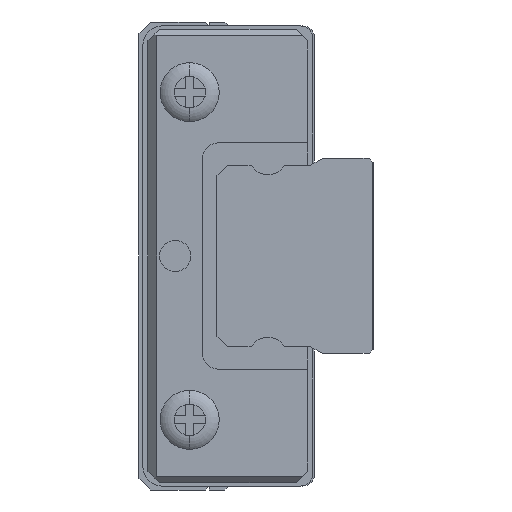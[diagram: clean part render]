
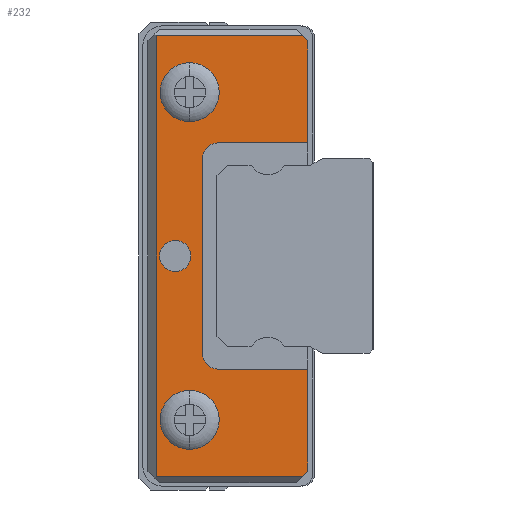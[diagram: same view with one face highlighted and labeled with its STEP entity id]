
A CAD part, left-side view. The second image highlights one B-rep face of the part: STEP entity #232.
In plain terms, the highlighted planar face has unit normal (-1, 0, 0).
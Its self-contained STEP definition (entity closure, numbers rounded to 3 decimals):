
#232 = ADVANCED_FACE( '', ( #656, #657, #658, #659 ), #660, .F. );
#656 = FACE_BOUND( '', #1253, .T. );
#657 = FACE_BOUND( '', #1254, .T. );
#658 = FACE_BOUND( '', #1255, .T. );
#659 = FACE_OUTER_BOUND( '', #1256, .T. );
#660 = PLANE( '', #1257 );
#1253 = EDGE_LOOP( '', ( #2466, #2467 ) );
#1254 = EDGE_LOOP( '', ( #2468, #2469 ) );
#1255 = EDGE_LOOP( '', ( #2470, #2471 ) );
#1256 = EDGE_LOOP( '', ( #2472, #2473, #2474, #2475, #2476, #2477, #2478, #2479, #2480, #2481, #2482, #2483 ) );
#1257 = AXIS2_PLACEMENT_3D( '', #2484, #2485, #2486 );
#2466 = ORIENTED_EDGE( '', *, *, #4173, .T. );
#2467 = ORIENTED_EDGE( '', *, *, #4201, .T. );
#2468 = ORIENTED_EDGE( '', *, *, #4117, .T. );
#2469 = ORIENTED_EDGE( '', *, *, #4213, .T. );
#2470 = ORIENTED_EDGE( '', *, *, #4130, .T. );
#2471 = ORIENTED_EDGE( '', *, *, #4214, .T. );
#2472 = ORIENTED_EDGE( '', *, *, #4205, .T. );
#2473 = ORIENTED_EDGE( '', *, *, #4215, .T. );
#2474 = ORIENTED_EDGE( '', *, *, #4216, .T. );
#2475 = ORIENTED_EDGE( '', *, *, #4217, .T. );
#2476 = ORIENTED_EDGE( '', *, *, #4218, .T. );
#2477 = ORIENTED_EDGE( '', *, *, #4219, .T. );
#2478 = ORIENTED_EDGE( '', *, *, #4220, .T. );
#2479 = ORIENTED_EDGE( '', *, *, #4221, .T. );
#2480 = ORIENTED_EDGE( '', *, *, #4222, .T. );
#2481 = ORIENTED_EDGE( '', *, *, #4223, .T. );
#2482 = ORIENTED_EDGE( '', *, *, #4224, .T. );
#2483 = ORIENTED_EDGE( '', *, *, #4209, .T. );
#2484 = CARTESIAN_POINT( '', ( 82.05, 1.5, 0. ) );
#2485 = DIRECTION( '', ( 1., 0., 0. ) );
#2486 = DIRECTION( '', ( 0., 0., -1. ) );
#4117 = EDGE_CURVE( '', #5003, #5000, #5004, .T. );
#4130 = EDGE_CURVE( '', #5029, #5026, #5030, .T. );
#4173 = EDGE_CURVE( '', #5115, #5112, #5116, .T. );
#4201 = EDGE_CURVE( '', #5112, #5115, #5159, .T. );
#4205 = EDGE_CURVE( '', #5165, #5162, #5166, .T. );
#4209 = EDGE_CURVE( '', #5172, #5165, #5173, .T. );
#4213 = EDGE_CURVE( '', #5000, #5003, #5179, .T. );
#4214 = EDGE_CURVE( '', #5026, #5029, #5180, .T. );
#4215 = EDGE_CURVE( '', #5162, #5181, #5182, .T. );
#4216 = EDGE_CURVE( '', #5181, #5183, #5184, .T. );
#4217 = EDGE_CURVE( '', #5183, #5185, #5186, .T. );
#4218 = EDGE_CURVE( '', #5185, #5187, #5188, .T. );
#4219 = EDGE_CURVE( '', #5187, #5189, #5190, .T. );
#4220 = EDGE_CURVE( '', #5189, #5191, #5192, .T. );
#4221 = EDGE_CURVE( '', #5191, #5193, #5194, .T. );
#4222 = EDGE_CURVE( '', #5193, #5195, #5196, .T. );
#4223 = EDGE_CURVE( '', #5195, #5197, #5198, .T. );
#4224 = EDGE_CURVE( '', #5197, #5172, #5199, .T. );
#5000 = VERTEX_POINT( '', #6336 );
#5003 = VERTEX_POINT( '', #6339 );
#5004 = CIRCLE( '', #6340, 0.757 );
#5026 = VERTEX_POINT( '', #6386 );
#5029 = VERTEX_POINT( '', #6389 );
#5030 = CIRCLE( '', #6390, 0.757 );
#5112 = VERTEX_POINT( '', #6546 );
#5115 = VERTEX_POINT( '', #6550 );
#5116 = CIRCLE( '', #6551, 0.4 );
#5159 = CIRCLE( '', #6607, 0.4 );
#5162 = VERTEX_POINT( '', #6610 );
#5165 = VERTEX_POINT( '', #6614 );
#5166 = LINE( '', #6615, #6616 );
#5172 = VERTEX_POINT( '', #6625 );
#5173 = LINE( '', #6626, #6627 );
#5179 = CIRCLE( '', #6636, 0.757 );
#5180 = CIRCLE( '', #6637, 0.757 );
#5181 = VERTEX_POINT( '', #6638 );
#5182 = LINE( '', #6639, #6640 );
#5183 = VERTEX_POINT( '', #6641 );
#5184 = LINE( '', #6642, #6643 );
#5185 = VERTEX_POINT( '', #6644 );
#5186 = LINE( '', #6645, #6646 );
#5187 = VERTEX_POINT( '', #6647 );
#5188 = LINE( '', #6648, #6649 );
#5189 = VERTEX_POINT( '', #6650 );
#5190 = LINE( '', #6651, #6652 );
#5191 = VERTEX_POINT( '', #6653 );
#5192 = CIRCLE( '', #6654, 0.4 );
#5193 = VERTEX_POINT( '', #6655 );
#5194 = LINE( '', #6656, #6657 );
#5195 = VERTEX_POINT( '', #6658 );
#5196 = CIRCLE( '', #6659, 0.4 );
#5197 = VERTEX_POINT( '', #6660 );
#5198 = LINE( '', #6661, #6662 );
#5199 = LINE( '', #6663, #6664 );
#6336 = CARTESIAN_POINT( '', ( 82.05, 4.7, -3.443 ) );
#6339 = CARTESIAN_POINT( '', ( 82.05, 4.7, -4.957 ) );
#6340 = AXIS2_PLACEMENT_3D( '', #8235, #8236, #8237 );
#6386 = CARTESIAN_POINT( '', ( 82.05, 4.7, 4.957 ) );
#6389 = CARTESIAN_POINT( '', ( 82.05, 4.7, 3.443 ) );
#6390 = AXIS2_PLACEMENT_3D( '', #8250, #8251, #8252 );
#6546 = CARTESIAN_POINT( '', ( 82.05, 5.47, 0. ) );
#6550 = CARTESIAN_POINT( '', ( 82.05, 4.67, 0. ) );
#6551 = AXIS2_PLACEMENT_3D( '', #8301, #8302, #8303 );
#6607 = AXIS2_PLACEMENT_3D( '', #8359, #8360, #8361 );
#6610 = CARTESIAN_POINT( '', ( 82.05, 5.55, 5.65 ) );
#6614 = CARTESIAN_POINT( '', ( 82.05, 1.805, 5.65 ) );
#6615 = CARTESIAN_POINT( '', ( 82.05, 1.5, 5.65 ) );
#6616 = VECTOR( '', #8369, 1. );
#6625 = CARTESIAN_POINT( '', ( 82.05, 1.67, 5.515 ) );
#6626 = CARTESIAN_POINT( '', ( 82.05, 0.399, 4.244 ) );
#6627 = VECTOR( '', #8373, 1. );
#6636 = AXIS2_PLACEMENT_3D( '', #8377, #8378, #8379 );
#6637 = AXIS2_PLACEMENT_3D( '', #8380, #8381, #8382 );
#6638 = CARTESIAN_POINT( '', ( 82.05, 5.55, -5.65 ) );
#6639 = CARTESIAN_POINT( '', ( 82.05, 5.55, 4.2 ) );
#6640 = VECTOR( '', #8383, 1. );
#6641 = CARTESIAN_POINT( '', ( 82.05, 1.805, -5.65 ) );
#6642 = CARTESIAN_POINT( '', ( 82.05, 1.5, -5.65 ) );
#6643 = VECTOR( '', #8384, 1. );
#6644 = CARTESIAN_POINT( '', ( 82.05, 1.67, -5.515 ) );
#6645 = CARTESIAN_POINT( '', ( 82.05, 0.249, -4.094 ) );
#6646 = VECTOR( '', #8385, 1. );
#6647 = CARTESIAN_POINT( '', ( 82.05, 1.67, -2.9 ) );
#6648 = CARTESIAN_POINT( '', ( 82.05, 1.67, 2.758 ) );
#6649 = VECTOR( '', #8386, 1. );
#6650 = CARTESIAN_POINT( '', ( 82.05, 3.97, -2.9 ) );
#6651 = CARTESIAN_POINT( '', ( 82.05, 1.585, -2.9 ) );
#6652 = VECTOR( '', #8387, 1. );
#6653 = CARTESIAN_POINT( '', ( 82.05, 4.37, -2.5 ) );
#6654 = AXIS2_PLACEMENT_3D( '', #8388, #8389, #8390 );
#6655 = CARTESIAN_POINT( '', ( 82.05, 4.37, 2.5 ) );
#6656 = CARTESIAN_POINT( '', ( 82.05, 4.37, -1.25 ) );
#6657 = VECTOR( '', #8391, 1. );
#6658 = CARTESIAN_POINT( '', ( 82.05, 3.97, 2.9 ) );
#6659 = AXIS2_PLACEMENT_3D( '', #8392, #8393, #8394 );
#6660 = CARTESIAN_POINT( '', ( 82.05, 1.67, 2.9 ) );
#6661 = CARTESIAN_POINT( '', ( 82.05, 2.735, 2.9 ) );
#6662 = VECTOR( '', #8395, 1. );
#6663 = CARTESIAN_POINT( '', ( 82.05, 1.67, 2.758 ) );
#6664 = VECTOR( '', #8396, 1. );
#8235 = CARTESIAN_POINT( '', ( 82.05, 4.7, -4.2 ) );
#8236 = DIRECTION( '', ( 1., 0., 0. ) );
#8237 = DIRECTION( '', ( 0., 0., 1. ) );
#8250 = CARTESIAN_POINT( '', ( 82.05, 4.7, 4.2 ) );
#8251 = DIRECTION( '', ( 1., 0., 0. ) );
#8252 = DIRECTION( '', ( 0., 0., 1. ) );
#8301 = CARTESIAN_POINT( '', ( 82.05, 5.07, 0. ) );
#8302 = DIRECTION( '', ( 1., 0., 0. ) );
#8303 = DIRECTION( '', ( 0., 1., 0. ) );
#8359 = CARTESIAN_POINT( '', ( 82.05, 5.07, 0. ) );
#8360 = DIRECTION( '', ( 1., 0., 0. ) );
#8361 = DIRECTION( '', ( 0., 1., 0. ) );
#8369 = DIRECTION( '', ( 0., 1., 0. ) );
#8373 = DIRECTION( '', ( 0., 0.707, 0.707 ) );
#8377 = CARTESIAN_POINT( '', ( 82.05, 4.7, -4.2 ) );
#8378 = DIRECTION( '', ( 1., 0., 0. ) );
#8379 = DIRECTION( '', ( 0., 0., 1. ) );
#8380 = CARTESIAN_POINT( '', ( 82.05, 4.7, 4.2 ) );
#8381 = DIRECTION( '', ( 1., 0., 0. ) );
#8382 = DIRECTION( '', ( 0., 0., 1. ) );
#8383 = DIRECTION( '', ( 0., 0., -1. ) );
#8384 = DIRECTION( '', ( 0., -1., 0. ) );
#8385 = DIRECTION( '', ( 0., -0.707, 0.707 ) );
#8386 = DIRECTION( '', ( 0., 0., 1. ) );
#8387 = DIRECTION( '', ( 0., 1., 0. ) );
#8388 = CARTESIAN_POINT( '', ( 82.05, 3.97, -2.5 ) );
#8389 = DIRECTION( '', ( 1., 0., 0. ) );
#8390 = DIRECTION( '', ( 0., 0., -1. ) );
#8391 = DIRECTION( '', ( 0., 0., 1. ) );
#8392 = CARTESIAN_POINT( '', ( 82.05, 3.97, 2.5 ) );
#8393 = DIRECTION( '', ( 1., 0., 0. ) );
#8394 = DIRECTION( '', ( 0., 1., 0. ) );
#8395 = DIRECTION( '', ( 0., -1., 0. ) );
#8396 = DIRECTION( '', ( 0., 0., 1. ) );
